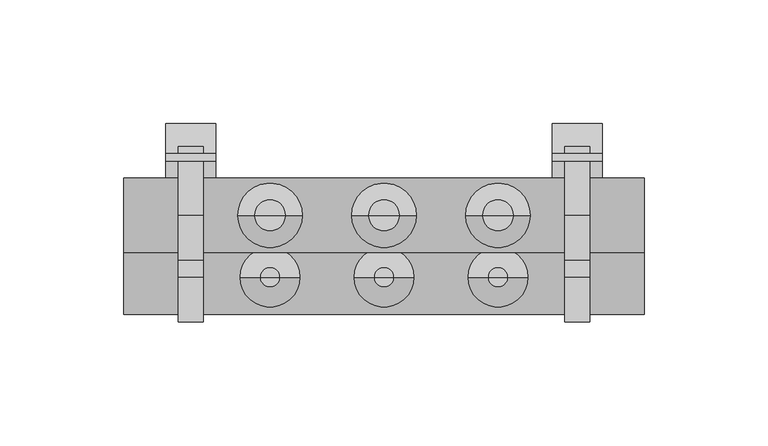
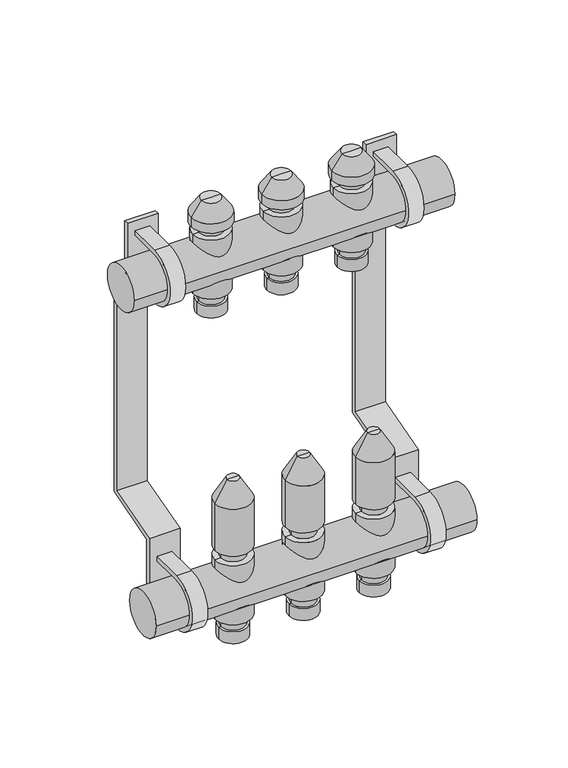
"""IFC4 building model written with IfcOpenShell, lengths in millimetres: valve geometry, PL AT_Manifold_FT-EV : 03 circuits."""

from ifc_helpers import new_model, si_unit, point, frame, frame_2d, origin, origin_2d, place, context, project, spatial, polyline, circle_curve, trimmed, segment, composite_curve, outline, extrude, source, transform, mapped, element, save
from ifc_brep_helpers import plane_surface, cylinder_surface, revolved_surface, advanced_brep


def valve_5e9e6dc7(model_context):
    return source(origin(), model_context, "Body", "SolidModel", [
        advanced_brep(
        [(78.5, 0.0, -35.11267), (97.5, 0.0, -35.11267), (88.0, 0.0, -35.11267), (78.5, 0.0, -27.0369646), (97.5, 0.0, -27.0369646), (80.0, 0.0, -27.0369646), (96.0, 0.0, -27.0369646), (80.0, 0.0, -20.330253), (96.0, 0.0, -20.330253), (76.0, 0.0, -20.330253), (100.0, 0.0, -20.330253), (76.0, 0.0, 20.330253), (100.0, 0.0, 20.330253), (80.0, 0.0, 20.330253), (96.0, 0.0, 20.330253), (80.0, 0.0, 27.0474786), (96.0, 0.0, 27.0474786), (76.0, 0.0, 27.0474786), (100.0, 0.0, 27.0474786), (76.0, 0.0, 59.4084325), (100.0, 0.0, 59.4084325), (84.0, 0.0, 73.264839), (92.0, 0.0, 73.264839), (88.0, 0.0, 73.264839)],
        [
            (0, 1, circle_curve(frame((88.0, 0.0, -35.11267), z_axis=(0.0, 0.0, -1.0), x_axis=(1.0, 0.0, 0.0)), 9.5)),
            (1, 2),
            (2, 0),
            (1, 0, circle_curve(frame((88.0, 0.0, -35.11267), z_axis=(0.0, 0.0, -1.0), x_axis=(1.0, 0.0, 0.0)), 9.5)),
            (3, 4, circle_curve(frame((88.0, 0.0, -27.0369646), z_axis=(0.0, 0.0, -1.0), x_axis=(1.0, 0.0, 0.0)), 9.5)),
            (4, 1),
            (0, 3),
            (4, 3, circle_curve(frame((88.0, 0.0, -27.0369646), z_axis=(0.0, 0.0, -1.0), x_axis=(1.0, 0.0, 0.0)), 9.5)),
            (5, 6, circle_curve(frame((88.0, 0.0, -27.0369646), z_axis=(0.0, 0.0, -1.0), x_axis=(1.0, 0.0, 0.0)), 8.0)),
            (6, 4),
            (3, 5),
            (6, 5, circle_curve(frame((88.0, 0.0, -27.0369646), z_axis=(0.0, 0.0, -1.0), x_axis=(1.0, 0.0, 0.0)), 8.0)),
            (7, 8, circle_curve(frame((88.0, 0.0, -20.330253), z_axis=(0.0, 0.0, -1.0), x_axis=(1.0, 0.0, 0.0)), 8.0)),
            (8, 6),
            (5, 7),
            (8, 7, circle_curve(frame((88.0, 0.0, -20.330253), z_axis=(0.0, 0.0, -1.0), x_axis=(1.0, 0.0, 0.0)), 8.0)),
            (9, 10, circle_curve(frame((88.0, 0.0, -20.330253), z_axis=(0.0, 0.0, -1.0), x_axis=(1.0, 0.0, 0.0)), 12.0)),
            (10, 8),
            (7, 9),
            (10, 9, circle_curve(frame((88.0, 0.0, -20.330253), z_axis=(0.0, 0.0, -1.0), x_axis=(1.0, 0.0, 0.0)), 12.0)),
            (11, 12, circle_curve(frame((88.0, 0.0, 20.330253), z_axis=(0.0, 0.0, -1.0), x_axis=(1.0, 0.0, 0.0)), 12.0)),
            (12, 10),
            (9, 11),
            (12, 11, circle_curve(frame((88.0, 0.0, 20.330253), z_axis=(0.0, 0.0, -1.0), x_axis=(1.0, 0.0, 0.0)), 12.0)),
            (13, 14, circle_curve(frame((88.0, 0.0, 20.330253), z_axis=(0.0, 0.0, -1.0), x_axis=(1.0, 0.0, 0.0)), 8.0)),
            (14, 12),
            (11, 13),
            (14, 13, circle_curve(frame((88.0, 0.0, 20.330253), z_axis=(0.0, 0.0, -1.0), x_axis=(1.0, 0.0, 0.0)), 8.0)),
            (15, 16, circle_curve(frame((88.0, 0.0, 27.0474786), z_axis=(0.0, 0.0, -1.0), x_axis=(1.0, 0.0, 0.0)), 8.0)),
            (16, 14),
            (13, 15),
            (16, 15, circle_curve(frame((88.0, 0.0, 27.0474786), z_axis=(0.0, 0.0, -1.0), x_axis=(1.0, 0.0, 0.0)), 8.0)),
            (17, 18, circle_curve(frame((88.0, 0.0, 27.0474786), z_axis=(0.0, 0.0, -1.0), x_axis=(1.0, 0.0, 0.0)), 12.0)),
            (18, 16),
            (15, 17),
            (18, 17, circle_curve(frame((88.0, 0.0, 27.0474786), z_axis=(0.0, 0.0, -1.0), x_axis=(1.0, 0.0, 0.0)), 12.0)),
            (19, 20, circle_curve(frame((88.0, 0.0, 59.4084325), z_axis=(0.0, 0.0, -1.0), x_axis=(1.0, 0.0, 0.0)), 12.0)),
            (20, 18),
            (17, 19),
            (20, 19, circle_curve(frame((88.0, 0.0, 59.4084325), z_axis=(0.0, 0.0, -1.0), x_axis=(1.0, 0.0, 0.0)), 12.0)),
            (21, 22, circle_curve(frame((88.0, 0.0, 73.264839), z_axis=(0.0, 0.0, -1.0), x_axis=(1.0, 0.0, 0.0)), 4.0)),
            (22, 20),
            (19, 21),
            (22, 21, circle_curve(frame((88.0, 0.0, 73.264839), z_axis=(0.0, 0.0, -1.0), x_axis=(1.0, 0.0, 0.0)), 4.0)),
            (23, 22),
            (21, 23),
        ],
        [
            plane_surface(frame((88.0, 0.0, -35.11267), z_axis=(0.0, 0.0, -1.0), x_axis=(1.0, 0.0, 0.0))),
            cylinder_surface(frame((88.0, 0.0, 58.264839), z_axis=(0.0, 0.0, 1.0), x_axis=(1.0, 0.0, 0.0)), 9.5),
            plane_surface(frame((88.0, 0.0, -27.0369646), z_axis=(0.0, 0.0, 1.0), x_axis=(1.0, 0.0, 0.0))),
            cylinder_surface(frame((88.0, 0.0, 58.264839), z_axis=(0.0, 0.0, 1.0), x_axis=(1.0, 0.0, 0.0)), 8.0),
            plane_surface(frame((88.0, 0.0, -20.330253), z_axis=(0.0, 0.0, -1.0), x_axis=(1.0, 0.0, 0.0))),
            cylinder_surface(frame((88.0, 0.0, 58.264839), z_axis=(0.0, 0.0, 1.0), x_axis=(1.0, 0.0, 0.0)), 12.0),
            plane_surface(frame((88.0, 0.0, 20.330253), z_axis=(0.0, 0.0, 1.0), x_axis=(1.0, 0.0, 0.0))),
            plane_surface(frame((88.0, 0.0, 27.0474786), z_axis=(0.0, 0.0, -1.0), x_axis=(1.0, 0.0, 0.0))),
            revolved_surface(polyline([(100.0, 0.0, 59.4084325), (92.0, 0.0, 73.264839)]), (88.0, 0.0, 58.264839), (0.0, 0.0, 1.0)),
            plane_surface(frame((88.0, 0.0, 73.264839), z_axis=(0.0, 0.0, 1.0), x_axis=(1.0, 0.0, 0.0))),
        ],
        [
            (0, [[1, 2, 3]]),
            (0, [[4, -3, -2]]),
            (1, [[5, 6, -1, 7]]),
            (1, [[8, -7, -4, -6]]),
            (2, [[9, 10, -5, 11]]),
            (2, [[12, -11, -8, -10]]),
            (3, [[13, 14, -9, 15]]),
            (3, [[16, -15, -12, -14]]),
            (4, [[17, 18, -13, 19]]),
            (4, [[20, -19, -16, -18]]),
            (5, [[21, 22, -17, 23]]),
            (5, [[24, -23, -20, -22]]),
            (6, [[25, 26, -21, 27]]),
            (6, [[28, -27, -24, -26]]),
            (3, [[29, 30, -25, 31]]),
            (3, [[32, -31, -28, -30]]),
            (7, [[33, 34, -29, 35]]),
            (7, [[36, -35, -32, -34]]),
            (5, [[37, 38, -33, 39]]),
            (5, [[40, -39, -36, -38]]),
            (8, [[41, 42, -37, 43]]),
            (8, [[44, -43, -40, -42]]),
            (9, [[45, -41, 46]]),
            (9, [[-46, -44, -45]]),
        ],
    ),
        advanced_brep(
        [(78.5, 25.0, 174.88733), (97.5, 25.0, 174.88733), (88.0, 25.0, 174.88733), (78.5, 25.0, 182.9630354), (97.5, 25.0, 182.9630354), (80.0, 25.0, 182.9630354), (96.0, 25.0, 182.9630354), (80.0, 25.0, 189.669747), (96.0, 25.0, 189.669747), (76.0, 25.0, 189.669747), (100.0, 25.0, 189.669747), (76.0, 25.0, 230.330253), (100.0, 25.0, 230.330253), (80.0, 25.0, 230.330253), (96.0, 25.0, 230.330253), (80.0, 25.0, 236.0474786), (96.0, 25.0, 236.0474786), (75.0, 25.0, 236.0474786), (101.0, 25.0, 236.0474786), (75.0, 25.0, 242.337955), (101.0, 25.0, 242.337955), (81.6551779, 25.0, 251.842534), (94.3448221, 25.0, 251.842534), (88.0, 25.0, 251.842534)],
        [
            (0, 1, circle_curve(frame((88.0, 25.0, 174.88733), z_axis=(0.0, 0.0, -1.0), x_axis=(1.0, 0.0, 0.0)), 9.5)),
            (1, 2),
            (2, 0),
            (1, 0, circle_curve(frame((88.0, 25.0, 174.88733), z_axis=(0.0, 0.0, -1.0), x_axis=(1.0, 0.0, 0.0)), 9.5)),
            (3, 4, circle_curve(frame((88.0, 25.0, 182.9630354), z_axis=(0.0, 0.0, -1.0), x_axis=(1.0, 0.0, 0.0)), 9.5)),
            (4, 1),
            (0, 3),
            (4, 3, circle_curve(frame((88.0, 25.0, 182.9630354), z_axis=(0.0, 0.0, -1.0), x_axis=(1.0, 0.0, 0.0)), 9.5)),
            (5, 6, circle_curve(frame((88.0, 25.0, 182.9630354), z_axis=(0.0, 0.0, -1.0), x_axis=(1.0, 0.0, 0.0)), 8.0)),
            (6, 4),
            (3, 5),
            (6, 5, circle_curve(frame((88.0, 25.0, 182.9630354), z_axis=(0.0, 0.0, -1.0), x_axis=(1.0, 0.0, 0.0)), 8.0)),
            (7, 8, circle_curve(frame((88.0, 25.0, 189.669747), z_axis=(0.0, 0.0, -1.0), x_axis=(1.0, 0.0, 0.0)), 8.0)),
            (8, 6),
            (5, 7),
            (8, 7, circle_curve(frame((88.0, 25.0, 189.669747), z_axis=(0.0, 0.0, -1.0), x_axis=(1.0, 0.0, 0.0)), 8.0)),
            (9, 10, circle_curve(frame((88.0, 25.0, 189.669747), z_axis=(0.0, 0.0, -1.0), x_axis=(1.0, 0.0, 0.0)), 12.0)),
            (10, 8),
            (7, 9),
            (10, 9, circle_curve(frame((88.0, 25.0, 189.669747), z_axis=(0.0, 0.0, -1.0), x_axis=(1.0, 0.0, 0.0)), 12.0)),
            (11, 12, circle_curve(frame((88.0, 25.0, 230.330253), z_axis=(0.0, 0.0, -1.0), x_axis=(1.0, 0.0, 0.0)), 12.0)),
            (12, 10),
            (9, 11),
            (12, 11, circle_curve(frame((88.0, 25.0, 230.330253), z_axis=(0.0, 0.0, -1.0), x_axis=(1.0, 0.0, 0.0)), 12.0)),
            (13, 14, circle_curve(frame((88.0, 25.0, 230.330253), z_axis=(0.0, 0.0, -1.0), x_axis=(1.0, 0.0, 0.0)), 8.0)),
            (14, 12),
            (11, 13),
            (14, 13, circle_curve(frame((88.0, 25.0, 230.330253), z_axis=(0.0, 0.0, -1.0), x_axis=(1.0, 0.0, 0.0)), 8.0)),
            (15, 16, circle_curve(frame((88.0, 25.0, 236.0474786), z_axis=(0.0, 0.0, -1.0), x_axis=(1.0, 0.0, 0.0)), 8.0)),
            (16, 14),
            (13, 15),
            (16, 15, circle_curve(frame((88.0, 25.0, 236.0474786), z_axis=(0.0, 0.0, -1.0), x_axis=(1.0, 0.0, 0.0)), 8.0)),
            (17, 18, circle_curve(frame((88.0, 25.0, 236.0474786), z_axis=(0.0, 0.0, -1.0), x_axis=(1.0, 0.0, 0.0)), 13.0)),
            (18, 16),
            (15, 17),
            (18, 17, circle_curve(frame((88.0, 25.0, 236.0474786), z_axis=(0.0, 0.0, -1.0), x_axis=(1.0, 0.0, 0.0)), 13.0)),
            (19, 20, circle_curve(frame((88.0, 25.0, 242.337955), z_axis=(0.0, 0.0, -1.0), x_axis=(1.0, 0.0, 0.0)), 13.0)),
            (20, 18),
            (17, 19),
            (20, 19, circle_curve(frame((88.0, 25.0, 242.337955), z_axis=(0.0, 0.0, -1.0), x_axis=(1.0, 0.0, 0.0)), 13.0)),
            (21, 22, circle_curve(frame((88.0, 25.0, 251.842534), z_axis=(0.0, 0.0, -1.0), x_axis=(1.0, 0.0, 0.0)), 6.3448221)),
            (22, 20),
            (19, 21),
            (22, 21, circle_curve(frame((88.0, 25.0, 251.842534), z_axis=(0.0, 0.0, -1.0), x_axis=(1.0, 0.0, 0.0)), 6.3448221)),
            (23, 22),
            (21, 23),
        ],
        [
            plane_surface(frame((88.0, 25.0, 174.88733), z_axis=(0.0, 0.0, -1.0), x_axis=(1.0, 0.0, 0.0))),
            cylinder_surface(frame((88.0, 25.0, 247.7026565), z_axis=(0.0, 0.0, 1.0), x_axis=(1.0, 0.0, 0.0)), 9.5),
            plane_surface(frame((88.0, 25.0, 182.9630354), z_axis=(0.0, 0.0, 1.0), x_axis=(1.0, 0.0, 0.0))),
            cylinder_surface(frame((88.0, 25.0, 247.7026565), z_axis=(0.0, 0.0, 1.0), x_axis=(1.0, 0.0, 0.0)), 8.0),
            plane_surface(frame((88.0, 25.0, 189.669747), z_axis=(0.0, 0.0, -1.0), x_axis=(1.0, 0.0, 0.0))),
            cylinder_surface(frame((88.0, 25.0, 247.7026565), z_axis=(0.0, 0.0, 1.0), x_axis=(1.0, 0.0, 0.0)), 12.0),
            plane_surface(frame((88.0, 25.0, 230.330253), z_axis=(0.0, 0.0, 1.0), x_axis=(1.0, 0.0, 0.0))),
            plane_surface(frame((88.0, 25.0, 236.0474786), z_axis=(0.0, 0.0, -1.0), x_axis=(1.0, 0.0, 0.0))),
            cylinder_surface(frame((88.0, 25.0, 247.7026565), z_axis=(0.0, 0.0, 1.0), x_axis=(1.0, 0.0, 0.0)), 13.0),
            revolved_surface(polyline([(101.0, 25.0, 242.337955), (94.3448221, 25.0, 251.842534)]), (88.0, 25.0, 247.7026565), (0.0, 0.0, 1.0)),
            plane_surface(frame((88.0, 25.0, 251.842534), z_axis=(0.0, 0.0, 1.0), x_axis=(1.0, 0.0, 0.0))),
        ],
        [
            (0, [[1, 2, 3]]),
            (0, [[4, -3, -2]]),
            (1, [[5, 6, -1, 7]]),
            (1, [[8, -7, -4, -6]]),
            (2, [[9, 10, -5, 11]]),
            (2, [[12, -11, -8, -10]]),
            (3, [[13, 14, -9, 15]]),
            (3, [[16, -15, -12, -14]]),
            (4, [[17, 18, -13, 19]]),
            (4, [[20, -19, -16, -18]]),
            (5, [[21, 22, -17, 23]]),
            (5, [[24, -23, -20, -22]]),
            (6, [[25, 26, -21, 27]]),
            (6, [[28, -27, -24, -26]]),
            (3, [[29, 30, -25, 31]]),
            (3, [[32, -31, -28, -30]]),
            (7, [[33, 34, -29, 35]]),
            (7, [[36, -35, -32, -34]]),
            (8, [[37, 38, -33, 39]]),
            (8, [[40, -39, -36, -38]]),
            (9, [[41, 42, -37, 43]]),
            (9, [[44, -43, -40, -42]]),
            (10, [[45, -41, 46]]),
            (10, [[-46, -44, -45]]),
        ],
    ),
        advanced_brep(
        [(124.5, 0.0, -35.11267), (143.5, 0.0, -35.11267), (134.0, 0.0, -35.11267), (124.5, 0.0, -27.0369646), (143.5, 0.0, -27.0369646), (126.0, 0.0, -27.0369646), (142.0, 0.0, -27.0369646), (126.0, 0.0, -20.330253), (142.0, 0.0, -20.330253), (122.0, 0.0, -20.330253), (146.0, 0.0, -20.330253), (122.0, 0.0, 20.330253), (146.0, 0.0, 20.330253), (126.0, 0.0, 20.330253), (142.0, 0.0, 20.330253), (126.0, 0.0, 27.0474786), (142.0, 0.0, 27.0474786), (122.0, 0.0, 27.0474786), (146.0, 0.0, 27.0474786), (122.0, 0.0, 59.4084325), (146.0, 0.0, 59.4084325), (130.0, 0.0, 73.264839), (138.0, 0.0, 73.264839), (134.0, 0.0, 73.264839)],
        [
            (0, 1, circle_curve(frame((134.0, 0.0, -35.11267), z_axis=(0.0, 0.0, -1.0), x_axis=(1.0, 0.0, 0.0)), 9.5)),
            (1, 2),
            (2, 0),
            (1, 0, circle_curve(frame((134.0, 0.0, -35.11267), z_axis=(0.0, 0.0, -1.0), x_axis=(1.0, 0.0, 0.0)), 9.5)),
            (3, 4, circle_curve(frame((134.0, 0.0, -27.0369646), z_axis=(0.0, 0.0, -1.0), x_axis=(1.0, 0.0, 0.0)), 9.5)),
            (4, 1),
            (0, 3),
            (4, 3, circle_curve(frame((134.0, 0.0, -27.0369646), z_axis=(0.0, 0.0, -1.0), x_axis=(1.0, 0.0, 0.0)), 9.5)),
            (5, 6, circle_curve(frame((134.0, 0.0, -27.0369646), z_axis=(0.0, 0.0, -1.0), x_axis=(1.0, 0.0, 0.0)), 8.0)),
            (6, 4),
            (3, 5),
            (6, 5, circle_curve(frame((134.0, 0.0, -27.0369646), z_axis=(0.0, 0.0, -1.0), x_axis=(1.0, 0.0, 0.0)), 8.0)),
            (7, 8, circle_curve(frame((134.0, 0.0, -20.330253), z_axis=(0.0, 0.0, -1.0), x_axis=(1.0, 0.0, 0.0)), 8.0)),
            (8, 6),
            (5, 7),
            (8, 7, circle_curve(frame((134.0, 0.0, -20.330253), z_axis=(0.0, 0.0, -1.0), x_axis=(1.0, 0.0, 0.0)), 8.0)),
            (9, 10, circle_curve(frame((134.0, 0.0, -20.330253), z_axis=(0.0, 0.0, -1.0), x_axis=(1.0, 0.0, 0.0)), 12.0)),
            (10, 8),
            (7, 9),
            (10, 9, circle_curve(frame((134.0, 0.0, -20.330253), z_axis=(0.0, 0.0, -1.0), x_axis=(1.0, 0.0, 0.0)), 12.0)),
            (11, 12, circle_curve(frame((134.0, 0.0, 20.330253), z_axis=(0.0, 0.0, -1.0), x_axis=(1.0, 0.0, 0.0)), 12.0)),
            (12, 10),
            (9, 11),
            (12, 11, circle_curve(frame((134.0, 0.0, 20.330253), z_axis=(0.0, 0.0, -1.0), x_axis=(1.0, 0.0, 0.0)), 12.0)),
            (13, 14, circle_curve(frame((134.0, 0.0, 20.330253), z_axis=(0.0, 0.0, -1.0), x_axis=(1.0, 0.0, 0.0)), 8.0)),
            (14, 12),
            (11, 13),
            (14, 13, circle_curve(frame((134.0, 0.0, 20.330253), z_axis=(0.0, 0.0, -1.0), x_axis=(1.0, 0.0, 0.0)), 8.0)),
            (15, 16, circle_curve(frame((134.0, 0.0, 27.0474786), z_axis=(0.0, 0.0, -1.0), x_axis=(1.0, 0.0, 0.0)), 8.0)),
            (16, 14),
            (13, 15),
            (16, 15, circle_curve(frame((134.0, 0.0, 27.0474786), z_axis=(0.0, 0.0, -1.0), x_axis=(1.0, 0.0, 0.0)), 8.0)),
            (17, 18, circle_curve(frame((134.0, 0.0, 27.0474786), z_axis=(0.0, 0.0, -1.0), x_axis=(1.0, 0.0, 0.0)), 12.0)),
            (18, 16),
            (15, 17),
            (18, 17, circle_curve(frame((134.0, 0.0, 27.0474786), z_axis=(0.0, 0.0, -1.0), x_axis=(1.0, 0.0, 0.0)), 12.0)),
            (19, 20, circle_curve(frame((134.0, 0.0, 59.4084325), z_axis=(0.0, 0.0, -1.0), x_axis=(1.0, 0.0, 0.0)), 12.0)),
            (20, 18),
            (17, 19),
            (20, 19, circle_curve(frame((134.0, 0.0, 59.4084325), z_axis=(0.0, 0.0, -1.0), x_axis=(1.0, 0.0, 0.0)), 12.0)),
            (21, 22, circle_curve(frame((134.0, 0.0, 73.264839), z_axis=(0.0, 0.0, -1.0), x_axis=(1.0, 0.0, 0.0)), 4.0)),
            (22, 20),
            (19, 21),
            (22, 21, circle_curve(frame((134.0, 0.0, 73.264839), z_axis=(0.0, 0.0, -1.0), x_axis=(1.0, 0.0, 0.0)), 4.0)),
            (23, 22),
            (21, 23),
        ],
        [
            plane_surface(frame((134.0, 0.0, -35.11267), z_axis=(0.0, 0.0, -1.0), x_axis=(1.0, 0.0, 0.0))),
            cylinder_surface(frame((134.0, 0.0, 58.264839), z_axis=(0.0, 0.0, 1.0), x_axis=(1.0, 0.0, 0.0)), 9.5),
            plane_surface(frame((134.0, 0.0, -27.0369646), z_axis=(0.0, 0.0, 1.0), x_axis=(1.0, 0.0, 0.0))),
            cylinder_surface(frame((134.0, 0.0, 58.264839), z_axis=(0.0, 0.0, 1.0), x_axis=(1.0, 0.0, 0.0)), 8.0),
            plane_surface(frame((134.0, 0.0, -20.330253), z_axis=(0.0, 0.0, -1.0), x_axis=(1.0, 0.0, 0.0))),
            cylinder_surface(frame((134.0, 0.0, 58.264839), z_axis=(0.0, 0.0, 1.0), x_axis=(1.0, 0.0, 0.0)), 12.0),
            plane_surface(frame((134.0, 0.0, 20.330253), z_axis=(0.0, 0.0, 1.0), x_axis=(1.0, 0.0, 0.0))),
            plane_surface(frame((134.0, 0.0, 27.0474786), z_axis=(0.0, 0.0, -1.0), x_axis=(1.0, 0.0, 0.0))),
            revolved_surface(polyline([(146.0, 0.0, 59.4084325), (138.0, 0.0, 73.264839)]), (134.0, 0.0, 58.264839), (0.0, 0.0, 1.0)),
            plane_surface(frame((134.0, 0.0, 73.264839), z_axis=(0.0, 0.0, 1.0), x_axis=(1.0, 0.0, 0.0))),
        ],
        [
            (0, [[1, 2, 3]]),
            (0, [[4, -3, -2]]),
            (1, [[5, 6, -1, 7]]),
            (1, [[8, -7, -4, -6]]),
            (2, [[9, 10, -5, 11]]),
            (2, [[12, -11, -8, -10]]),
            (3, [[13, 14, -9, 15]]),
            (3, [[16, -15, -12, -14]]),
            (4, [[17, 18, -13, 19]]),
            (4, [[20, -19, -16, -18]]),
            (5, [[21, 22, -17, 23]]),
            (5, [[24, -23, -20, -22]]),
            (6, [[25, 26, -21, 27]]),
            (6, [[28, -27, -24, -26]]),
            (3, [[29, 30, -25, 31]]),
            (3, [[32, -31, -28, -30]]),
            (7, [[33, 34, -29, 35]]),
            (7, [[36, -35, -32, -34]]),
            (5, [[37, 38, -33, 39]]),
            (5, [[40, -39, -36, -38]]),
            (8, [[41, 42, -37, 43]]),
            (8, [[44, -43, -40, -42]]),
            (9, [[45, -41, 46]]),
            (9, [[-46, -44, -45]]),
        ],
    ),
        advanced_brep(
        [(124.5, 25.0, 174.88733), (143.5, 25.0, 174.88733), (134.0, 25.0, 174.88733), (124.5, 25.0, 182.9630354), (143.5, 25.0, 182.9630354), (126.0, 25.0, 182.9630354), (142.0, 25.0, 182.9630354), (126.0, 25.0, 189.669747), (142.0, 25.0, 189.669747), (122.0, 25.0, 189.669747), (146.0, 25.0, 189.669747), (122.0, 25.0, 230.330253), (146.0, 25.0, 230.330253), (126.0, 25.0, 230.330253), (142.0, 25.0, 230.330253), (126.0, 25.0, 236.0474786), (142.0, 25.0, 236.0474786), (121.0, 25.0, 236.0474786), (147.0, 25.0, 236.0474786), (121.0, 25.0, 242.337955), (147.0, 25.0, 242.337955), (127.6551779, 25.0, 251.842534), (140.3448221, 25.0, 251.842534), (134.0, 25.0, 251.842534)],
        [
            (0, 1, circle_curve(frame((134.0, 25.0, 174.88733), z_axis=(0.0, 0.0, -1.0), x_axis=(1.0, 0.0, 0.0)), 9.5)),
            (1, 2),
            (2, 0),
            (1, 0, circle_curve(frame((134.0, 25.0, 174.88733), z_axis=(0.0, 0.0, -1.0), x_axis=(1.0, 0.0, 0.0)), 9.5)),
            (3, 4, circle_curve(frame((134.0, 25.0, 182.9630354), z_axis=(0.0, 0.0, -1.0), x_axis=(1.0, 0.0, 0.0)), 9.5)),
            (4, 1),
            (0, 3),
            (4, 3, circle_curve(frame((134.0, 25.0, 182.9630354), z_axis=(0.0, 0.0, -1.0), x_axis=(1.0, 0.0, 0.0)), 9.5)),
            (5, 6, circle_curve(frame((134.0, 25.0, 182.9630354), z_axis=(0.0, 0.0, -1.0), x_axis=(1.0, 0.0, 0.0)), 8.0)),
            (6, 4),
            (3, 5),
            (6, 5, circle_curve(frame((134.0, 25.0, 182.9630354), z_axis=(0.0, 0.0, -1.0), x_axis=(1.0, 0.0, 0.0)), 8.0)),
            (7, 8, circle_curve(frame((134.0, 25.0, 189.669747), z_axis=(0.0, 0.0, -1.0), x_axis=(1.0, 0.0, 0.0)), 8.0)),
            (8, 6),
            (5, 7),
            (8, 7, circle_curve(frame((134.0, 25.0, 189.669747), z_axis=(0.0, 0.0, -1.0), x_axis=(1.0, 0.0, 0.0)), 8.0)),
            (9, 10, circle_curve(frame((134.0, 25.0, 189.669747), z_axis=(0.0, 0.0, -1.0), x_axis=(1.0, 0.0, 0.0)), 12.0)),
            (10, 8),
            (7, 9),
            (10, 9, circle_curve(frame((134.0, 25.0, 189.669747), z_axis=(0.0, 0.0, -1.0), x_axis=(1.0, 0.0, 0.0)), 12.0)),
            (11, 12, circle_curve(frame((134.0, 25.0, 230.330253), z_axis=(0.0, 0.0, -1.0), x_axis=(1.0, 0.0, 0.0)), 12.0)),
            (12, 10),
            (9, 11),
            (12, 11, circle_curve(frame((134.0, 25.0, 230.330253), z_axis=(0.0, 0.0, -1.0), x_axis=(1.0, 0.0, 0.0)), 12.0)),
            (13, 14, circle_curve(frame((134.0, 25.0, 230.330253), z_axis=(0.0, 0.0, -1.0), x_axis=(1.0, 0.0, 0.0)), 8.0)),
            (14, 12),
            (11, 13),
            (14, 13, circle_curve(frame((134.0, 25.0, 230.330253), z_axis=(0.0, 0.0, -1.0), x_axis=(1.0, 0.0, 0.0)), 8.0)),
            (15, 16, circle_curve(frame((134.0, 25.0, 236.0474786), z_axis=(0.0, 0.0, -1.0), x_axis=(1.0, 0.0, 0.0)), 8.0)),
            (16, 14),
            (13, 15),
            (16, 15, circle_curve(frame((134.0, 25.0, 236.0474786), z_axis=(0.0, 0.0, -1.0), x_axis=(1.0, 0.0, 0.0)), 8.0)),
            (17, 18, circle_curve(frame((134.0, 25.0, 236.0474786), z_axis=(0.0, 0.0, -1.0), x_axis=(1.0, 0.0, 0.0)), 13.0)),
            (18, 16),
            (15, 17),
            (18, 17, circle_curve(frame((134.0, 25.0, 236.0474786), z_axis=(0.0, 0.0, -1.0), x_axis=(1.0, 0.0, 0.0)), 13.0)),
            (19, 20, circle_curve(frame((134.0, 25.0, 242.337955), z_axis=(0.0, 0.0, -1.0), x_axis=(1.0, 0.0, 0.0)), 13.0)),
            (20, 18),
            (17, 19),
            (20, 19, circle_curve(frame((134.0, 25.0, 242.337955), z_axis=(0.0, 0.0, -1.0), x_axis=(1.0, 0.0, 0.0)), 13.0)),
            (21, 22, circle_curve(frame((134.0, 25.0, 251.842534), z_axis=(0.0, 0.0, -1.0), x_axis=(1.0, 0.0, 0.0)), 6.3448221)),
            (22, 20),
            (19, 21),
            (22, 21, circle_curve(frame((134.0, 25.0, 251.842534), z_axis=(0.0, 0.0, -1.0), x_axis=(1.0, 0.0, 0.0)), 6.3448221)),
            (23, 22),
            (21, 23),
        ],
        [
            plane_surface(frame((134.0, 25.0, 174.88733), z_axis=(0.0, 0.0, -1.0), x_axis=(1.0, 0.0, 0.0))),
            cylinder_surface(frame((134.0, 25.0, 247.7026565), z_axis=(0.0, 0.0, 1.0), x_axis=(1.0, 0.0, 0.0)), 9.5),
            plane_surface(frame((134.0, 25.0, 182.9630354), z_axis=(0.0, 0.0, 1.0), x_axis=(1.0, 0.0, 0.0))),
            cylinder_surface(frame((134.0, 25.0, 247.7026565), z_axis=(0.0, 0.0, 1.0), x_axis=(1.0, 0.0, 0.0)), 8.0),
            plane_surface(frame((134.0, 25.0, 189.669747), z_axis=(0.0, 0.0, -1.0), x_axis=(1.0, 0.0, 0.0))),
            cylinder_surface(frame((134.0, 25.0, 247.7026565), z_axis=(0.0, 0.0, 1.0), x_axis=(1.0, 0.0, 0.0)), 12.0),
            plane_surface(frame((134.0, 25.0, 230.330253), z_axis=(0.0, 0.0, 1.0), x_axis=(1.0, 0.0, 0.0))),
            plane_surface(frame((134.0, 25.0, 236.0474786), z_axis=(0.0, 0.0, -1.0), x_axis=(1.0, 0.0, 0.0))),
            cylinder_surface(frame((134.0, 25.0, 247.7026565), z_axis=(0.0, 0.0, 1.0), x_axis=(1.0, 0.0, 0.0)), 13.0),
            revolved_surface(polyline([(147.0, 25.0, 242.337955), (140.3448221, 25.0, 251.842534)]), (134.0, 25.0, 247.7026565), (0.0, 0.0, 1.0)),
            plane_surface(frame((134.0, 25.0, 251.842534), z_axis=(0.0, 0.0, 1.0), x_axis=(1.0, 0.0, 0.0))),
        ],
        [
            (0, [[1, 2, 3]]),
            (0, [[4, -3, -2]]),
            (1, [[5, 6, -1, 7]]),
            (1, [[8, -7, -4, -6]]),
            (2, [[9, 10, -5, 11]]),
            (2, [[12, -11, -8, -10]]),
            (3, [[13, 14, -9, 15]]),
            (3, [[16, -15, -12, -14]]),
            (4, [[17, 18, -13, 19]]),
            (4, [[20, -19, -16, -18]]),
            (5, [[21, 22, -17, 23]]),
            (5, [[24, -23, -20, -22]]),
            (6, [[25, 26, -21, 27]]),
            (6, [[28, -27, -24, -26]]),
            (3, [[29, 30, -25, 31]]),
            (3, [[32, -31, -28, -30]]),
            (7, [[33, 34, -29, 35]]),
            (7, [[36, -35, -32, -34]]),
            (8, [[37, 38, -33, 39]]),
            (8, [[40, -39, -36, -38]]),
            (9, [[41, 42, -37, 43]]),
            (9, [[44, -43, -40, -42]]),
            (10, [[45, -41, 46]]),
            (10, [[-46, -44, -45]]),
        ],
    ),
        advanced_brep(
        [(32.5, 25.0, 174.88733), (51.5, 25.0, 174.88733), (42.0, 25.0, 174.88733), (32.5, 25.0, 182.9630354), (51.5, 25.0, 182.9630354), (34.0, 25.0, 182.9630354), (50.0, 25.0, 182.9630354), (34.0, 25.0, 189.669747), (50.0, 25.0, 189.669747), (30.0, 25.0, 189.669747), (54.0, 25.0, 189.669747), (30.0, 25.0, 230.330253), (54.0, 25.0, 230.330253), (34.0, 25.0, 230.330253), (50.0, 25.0, 230.330253), (34.0, 25.0, 236.0474786), (50.0, 25.0, 236.0474786), (29.0, 25.0, 236.0474786), (55.0, 25.0, 236.0474786), (29.0, 25.0, 242.337955), (55.0, 25.0, 242.337955), (35.6551779, 25.0, 251.842534), (48.3448221, 25.0, 251.842534), (42.0, 25.0, 251.842534)],
        [
            (0, 1, circle_curve(frame((42.0, 25.0, 174.88733), z_axis=(0.0, 0.0, -1.0), x_axis=(1.0, 0.0, 0.0)), 9.5)),
            (1, 2),
            (2, 0),
            (1, 0, circle_curve(frame((42.0, 25.0, 174.88733), z_axis=(0.0, 0.0, -1.0), x_axis=(1.0, 0.0, 0.0)), 9.5)),
            (3, 4, circle_curve(frame((42.0, 25.0, 182.9630354), z_axis=(0.0, 0.0, -1.0), x_axis=(1.0, 0.0, 0.0)), 9.5)),
            (4, 1),
            (0, 3),
            (4, 3, circle_curve(frame((42.0, 25.0, 182.9630354), z_axis=(0.0, 0.0, -1.0), x_axis=(1.0, 0.0, 0.0)), 9.5)),
            (5, 6, circle_curve(frame((42.0, 25.0, 182.9630354), z_axis=(0.0, 0.0, -1.0), x_axis=(1.0, 0.0, 0.0)), 8.0)),
            (6, 4),
            (3, 5),
            (6, 5, circle_curve(frame((42.0, 25.0, 182.9630354), z_axis=(0.0, 0.0, -1.0), x_axis=(1.0, 0.0, 0.0)), 8.0)),
            (7, 8, circle_curve(frame((42.0, 25.0, 189.669747), z_axis=(0.0, 0.0, -1.0), x_axis=(1.0, 0.0, 0.0)), 8.0)),
            (8, 6),
            (5, 7),
            (8, 7, circle_curve(frame((42.0, 25.0, 189.669747), z_axis=(0.0, 0.0, -1.0), x_axis=(1.0, 0.0, 0.0)), 8.0)),
            (9, 10, circle_curve(frame((42.0, 25.0, 189.669747), z_axis=(0.0, 0.0, -1.0), x_axis=(1.0, 0.0, 0.0)), 12.0)),
            (10, 8),
            (7, 9),
            (10, 9, circle_curve(frame((42.0, 25.0, 189.669747), z_axis=(0.0, 0.0, -1.0), x_axis=(1.0, 0.0, 0.0)), 12.0)),
            (11, 12, circle_curve(frame((42.0, 25.0, 230.330253), z_axis=(0.0, 0.0, -1.0), x_axis=(1.0, 0.0, 0.0)), 12.0)),
            (12, 10),
            (9, 11),
            (12, 11, circle_curve(frame((42.0, 25.0, 230.330253), z_axis=(0.0, 0.0, -1.0), x_axis=(1.0, 0.0, 0.0)), 12.0)),
            (13, 14, circle_curve(frame((42.0, 25.0, 230.330253), z_axis=(0.0, 0.0, -1.0), x_axis=(1.0, 0.0, 0.0)), 8.0)),
            (14, 12),
            (11, 13),
            (14, 13, circle_curve(frame((42.0, 25.0, 230.330253), z_axis=(0.0, 0.0, -1.0), x_axis=(1.0, 0.0, 0.0)), 8.0)),
            (15, 16, circle_curve(frame((42.0, 25.0, 236.0474786), z_axis=(0.0, 0.0, -1.0), x_axis=(1.0, 0.0, 0.0)), 8.0)),
            (16, 14),
            (13, 15),
            (16, 15, circle_curve(frame((42.0, 25.0, 236.0474786), z_axis=(0.0, 0.0, -1.0), x_axis=(1.0, 0.0, 0.0)), 8.0)),
            (17, 18, circle_curve(frame((42.0, 25.0, 236.0474786), z_axis=(0.0, 0.0, -1.0), x_axis=(1.0, 0.0, 0.0)), 13.0)),
            (18, 16),
            (15, 17),
            (18, 17, circle_curve(frame((42.0, 25.0, 236.0474786), z_axis=(0.0, 0.0, -1.0), x_axis=(1.0, 0.0, 0.0)), 13.0)),
            (19, 20, circle_curve(frame((42.0, 25.0, 242.337955), z_axis=(0.0, 0.0, -1.0), x_axis=(1.0, 0.0, 0.0)), 13.0)),
            (20, 18),
            (17, 19),
            (20, 19, circle_curve(frame((42.0, 25.0, 242.337955), z_axis=(0.0, 0.0, -1.0), x_axis=(1.0, 0.0, 0.0)), 13.0)),
            (21, 22, circle_curve(frame((42.0, 25.0, 251.842534), z_axis=(0.0, 0.0, -1.0), x_axis=(1.0, 0.0, 0.0)), 6.3448221)),
            (22, 20),
            (19, 21),
            (22, 21, circle_curve(frame((42.0, 25.0, 251.842534), z_axis=(0.0, 0.0, -1.0), x_axis=(1.0, 0.0, 0.0)), 6.3448221)),
            (23, 22),
            (21, 23),
        ],
        [
            plane_surface(frame((42.0, 25.0, 174.88733), z_axis=(0.0, 0.0, -1.0), x_axis=(1.0, 0.0, 0.0))),
            cylinder_surface(frame((42.0, 25.0, 247.7026565), z_axis=(0.0, 0.0, 1.0), x_axis=(1.0, 0.0, 0.0)), 9.5),
            plane_surface(frame((42.0, 25.0, 182.9630354), z_axis=(0.0, 0.0, 1.0), x_axis=(1.0, 0.0, 0.0))),
            cylinder_surface(frame((42.0, 25.0, 247.7026565), z_axis=(0.0, 0.0, 1.0), x_axis=(1.0, 0.0, 0.0)), 8.0),
            plane_surface(frame((42.0, 25.0, 189.669747), z_axis=(0.0, 0.0, -1.0), x_axis=(1.0, 0.0, 0.0))),
            cylinder_surface(frame((42.0, 25.0, 247.7026565), z_axis=(0.0, 0.0, 1.0), x_axis=(1.0, 0.0, 0.0)), 12.0),
            plane_surface(frame((42.0, 25.0, 230.330253), z_axis=(0.0, 0.0, 1.0), x_axis=(1.0, 0.0, 0.0))),
            plane_surface(frame((42.0, 25.0, 236.0474786), z_axis=(0.0, 0.0, -1.0), x_axis=(1.0, 0.0, 0.0))),
            cylinder_surface(frame((42.0, 25.0, 247.7026565), z_axis=(0.0, 0.0, 1.0), x_axis=(1.0, 0.0, 0.0)), 13.0),
            revolved_surface(polyline([(55.0, 25.0, 242.337955), (48.3448221, 25.0, 251.842534)]), (42.0, 25.0, 247.7026565), (0.0, 0.0, 1.0)),
            plane_surface(frame((42.0, 25.0, 251.842534), z_axis=(0.0, 0.0, 1.0), x_axis=(1.0, 0.0, 0.0))),
        ],
        [
            (0, [[1, 2, 3]]),
            (0, [[4, -3, -2]]),
            (1, [[5, 6, -1, 7]]),
            (1, [[8, -7, -4, -6]]),
            (2, [[9, 10, -5, 11]]),
            (2, [[12, -11, -8, -10]]),
            (3, [[13, 14, -9, 15]]),
            (3, [[16, -15, -12, -14]]),
            (4, [[17, 18, -13, 19]]),
            (4, [[20, -19, -16, -18]]),
            (5, [[21, 22, -17, 23]]),
            (5, [[24, -23, -20, -22]]),
            (6, [[25, 26, -21, 27]]),
            (6, [[28, -27, -24, -26]]),
            (3, [[29, 30, -25, 31]]),
            (3, [[32, -31, -28, -30]]),
            (7, [[33, 34, -29, 35]]),
            (7, [[36, -35, -32, -34]]),
            (8, [[37, 38, -33, 39]]),
            (8, [[40, -39, -36, -38]]),
            (9, [[41, 42, -37, 43]]),
            (9, [[44, -43, -40, -42]]),
            (10, [[45, -41, 46]]),
            (10, [[-46, -44, -45]]),
        ],
    ),
        advanced_brep(
        [(32.5, 0.0, -35.11267), (51.5, 0.0, -35.11267), (42.0, 0.0, -35.11267), (32.5, 0.0, -27.0369646), (51.5, 0.0, -27.0369646), (34.0, 0.0, -27.0369646), (50.0, 0.0, -27.0369646), (34.0, 0.0, -20.330253), (50.0, 0.0, -20.330253), (30.0, 0.0, -20.330253), (54.0, 0.0, -20.330253), (30.0, 0.0, 20.330253), (54.0, 0.0, 20.330253), (34.0, 0.0, 20.330253), (50.0, 0.0, 20.330253), (34.0, 0.0, 27.0474786), (50.0, 0.0, 27.0474786), (30.0, 0.0, 27.0474786), (54.0, 0.0, 27.0474786), (30.0, 0.0, 59.4084325), (54.0, 0.0, 59.4084325), (38.0, 0.0, 73.264839), (46.0, 0.0, 73.264839), (42.0, 0.0, 73.264839)],
        [
            (0, 1, circle_curve(frame((42.0, 0.0, -35.11267), z_axis=(0.0, 0.0, -1.0), x_axis=(1.0, 0.0, 0.0)), 9.5)),
            (1, 2),
            (2, 0),
            (1, 0, circle_curve(frame((42.0, 0.0, -35.11267), z_axis=(0.0, 0.0, -1.0), x_axis=(1.0, 0.0, 0.0)), 9.5)),
            (3, 4, circle_curve(frame((42.0, 0.0, -27.0369646), z_axis=(0.0, 0.0, -1.0), x_axis=(1.0, 0.0, 0.0)), 9.5)),
            (4, 1),
            (0, 3),
            (4, 3, circle_curve(frame((42.0, 0.0, -27.0369646), z_axis=(0.0, 0.0, -1.0), x_axis=(1.0, 0.0, 0.0)), 9.5)),
            (5, 6, circle_curve(frame((42.0, 0.0, -27.0369646), z_axis=(0.0, 0.0, -1.0), x_axis=(1.0, 0.0, 0.0)), 8.0)),
            (6, 4),
            (3, 5),
            (6, 5, circle_curve(frame((42.0, 0.0, -27.0369646), z_axis=(0.0, 0.0, -1.0), x_axis=(1.0, 0.0, 0.0)), 8.0)),
            (7, 8, circle_curve(frame((42.0, 0.0, -20.330253), z_axis=(0.0, 0.0, -1.0), x_axis=(1.0, 0.0, 0.0)), 8.0)),
            (8, 6),
            (5, 7),
            (8, 7, circle_curve(frame((42.0, 0.0, -20.330253), z_axis=(0.0, 0.0, -1.0), x_axis=(1.0, 0.0, 0.0)), 8.0)),
            (9, 10, circle_curve(frame((42.0, 0.0, -20.330253), z_axis=(0.0, 0.0, -1.0), x_axis=(1.0, 0.0, 0.0)), 12.0)),
            (10, 8),
            (7, 9),
            (10, 9, circle_curve(frame((42.0, 0.0, -20.330253), z_axis=(0.0, 0.0, -1.0), x_axis=(1.0, 0.0, 0.0)), 12.0)),
            (11, 12, circle_curve(frame((42.0, 0.0, 20.330253), z_axis=(0.0, 0.0, -1.0), x_axis=(1.0, 0.0, 0.0)), 12.0)),
            (12, 10),
            (9, 11),
            (12, 11, circle_curve(frame((42.0, 0.0, 20.330253), z_axis=(0.0, 0.0, -1.0), x_axis=(1.0, 0.0, 0.0)), 12.0)),
            (13, 14, circle_curve(frame((42.0, 0.0, 20.330253), z_axis=(0.0, 0.0, -1.0), x_axis=(1.0, 0.0, 0.0)), 8.0)),
            (14, 12),
            (11, 13),
            (14, 13, circle_curve(frame((42.0, 0.0, 20.330253), z_axis=(0.0, 0.0, -1.0), x_axis=(1.0, 0.0, 0.0)), 8.0)),
            (15, 16, circle_curve(frame((42.0, 0.0, 27.0474786), z_axis=(0.0, 0.0, -1.0), x_axis=(1.0, 0.0, 0.0)), 8.0)),
            (16, 14),
            (13, 15),
            (16, 15, circle_curve(frame((42.0, 0.0, 27.0474786), z_axis=(0.0, 0.0, -1.0), x_axis=(1.0, 0.0, 0.0)), 8.0)),
            (17, 18, circle_curve(frame((42.0, 0.0, 27.0474786), z_axis=(0.0, 0.0, -1.0), x_axis=(1.0, 0.0, 0.0)), 12.0)),
            (18, 16),
            (15, 17),
            (18, 17, circle_curve(frame((42.0, 0.0, 27.0474786), z_axis=(0.0, 0.0, -1.0), x_axis=(1.0, 0.0, 0.0)), 12.0)),
            (19, 20, circle_curve(frame((42.0, 0.0, 59.4084325), z_axis=(0.0, 0.0, -1.0), x_axis=(1.0, 0.0, 0.0)), 12.0)),
            (20, 18),
            (17, 19),
            (20, 19, circle_curve(frame((42.0, 0.0, 59.4084325), z_axis=(0.0, 0.0, -1.0), x_axis=(1.0, 0.0, 0.0)), 12.0)),
            (21, 22, circle_curve(frame((42.0, 0.0, 73.264839), z_axis=(0.0, 0.0, -1.0), x_axis=(1.0, 0.0, 0.0)), 4.0)),
            (22, 20),
            (19, 21),
            (22, 21, circle_curve(frame((42.0, 0.0, 73.264839), z_axis=(0.0, 0.0, -1.0), x_axis=(1.0, 0.0, 0.0)), 4.0)),
            (23, 22),
            (21, 23),
        ],
        [
            plane_surface(frame((42.0, 0.0, -35.11267), z_axis=(0.0, 0.0, -1.0), x_axis=(1.0, 0.0, 0.0))),
            cylinder_surface(frame((42.0, 0.0, 58.264839), z_axis=(0.0, 0.0, 1.0), x_axis=(1.0, 0.0, 0.0)), 9.5),
            plane_surface(frame((42.0, 0.0, -27.0369646), z_axis=(0.0, 0.0, 1.0), x_axis=(1.0, 0.0, 0.0))),
            cylinder_surface(frame((42.0, 0.0, 58.264839), z_axis=(0.0, 0.0, 1.0), x_axis=(1.0, 0.0, 0.0)), 8.0),
            plane_surface(frame((42.0, 0.0, -20.330253), z_axis=(0.0, 0.0, -1.0), x_axis=(1.0, 0.0, 0.0))),
            cylinder_surface(frame((42.0, 0.0, 58.264839), z_axis=(0.0, 0.0, 1.0), x_axis=(1.0, 0.0, 0.0)), 12.0),
            plane_surface(frame((42.0, 0.0, 20.330253), z_axis=(0.0, 0.0, 1.0), x_axis=(1.0, 0.0, 0.0))),
            plane_surface(frame((42.0, 0.0, 27.0474786), z_axis=(0.0, 0.0, -1.0), x_axis=(1.0, 0.0, 0.0))),
            revolved_surface(polyline([(54.0, 0.0, 59.4084325), (46.0, 0.0, 73.264839)]), (42.0, 0.0, 58.264839), (0.0, 0.0, 1.0)),
            plane_surface(frame((42.0, 0.0, 73.264839), z_axis=(0.0, 0.0, 1.0), x_axis=(1.0, 0.0, 0.0))),
        ],
        [
            (0, [[1, 2, 3]]),
            (0, [[4, -3, -2]]),
            (1, [[5, 6, -1, 7]]),
            (1, [[8, -7, -4, -6]]),
            (2, [[9, 10, -5, 11]]),
            (2, [[12, -11, -8, -10]]),
            (3, [[13, 14, -9, 15]]),
            (3, [[16, -15, -12, -14]]),
            (4, [[17, 18, -13, 19]]),
            (4, [[20, -19, -16, -18]]),
            (5, [[21, 22, -17, 23]]),
            (5, [[24, -23, -20, -22]]),
            (6, [[25, 26, -21, 27]]),
            (6, [[28, -27, -24, -26]]),
            (3, [[29, 30, -25, 31]]),
            (3, [[32, -31, -28, -30]]),
            (7, [[33, 34, -29, 35]]),
            (7, [[36, -35, -32, -34]]),
            (5, [[37, 38, -33, 39]]),
            (5, [[40, -39, -36, -38]]),
            (8, [[41, 42, -37, 43]]),
            (8, [[44, -43, -40, -42]]),
            (9, [[45, -41, 46]]),
            (9, [[-46, -44, -45]]),
        ],
    ),
        extrude(outline(composite_curve([segment(trimmed(circle_curve(origin_2d(), 15.0), [point((0.0, 15.0))], [point((0.0, -15.0))], True, "CARTESIAN"), True, "CONTINUOUS"), segment(polyline([(0.0, -15.0), (27.6751284, -15.0), (27.6751284, -18.0), (0.0, -18.0)]), True, "CONTINUOUS"), segment(trimmed(circle_curve(origin_2d(), 18.0), [point((0.0, -18.0))], [point((0.0, 18.0))], False, "CARTESIAN"), True, "CONTINUOUS"), segment(polyline([(0.0, 18.0), (27.6751284, 18.0), (27.6751284, 15.0), (0.0, 15.0)]), True, "CONTINUOUS")], self_intersect=False)), frame((161.0, 0.0, 0.0), z_axis=(1.0, 0.0, 0.0), x_axis=(0.0, 1.0, 0.0)), (0.0, 0.0, 1.0), 10.0),
        extrude(outline(composite_curve([segment(trimmed(circle_curve(frame_2d((25.0, 210.0)), 15.0), [point((25.0, 225.0))], [point((25.0, 195.0))], True, "CARTESIAN"), True, "CONTINUOUS"), segment(polyline([(25.0, 195.0), (52.6751284, 195.0), (52.6751284, 192.0), (25.0, 192.0)]), True, "CONTINUOUS"), segment(trimmed(circle_curve(frame_2d((25.0, 210.0)), 18.0), [point((25.0, 192.0))], [point((25.0, 228.0))], False, "CARTESIAN"), True, "CONTINUOUS"), segment(polyline([(25.0, 228.0), (52.6751284, 228.0), (52.6751284, 225.0), (25.0, 225.0)]), True, "CONTINUOUS")], self_intersect=False)), frame((161.0, 0.0, 0.0), z_axis=(1.0, 0.0, 0.0), x_axis=(0.0, 1.0, 0.0)), (0.0, 0.0, 1.0), 10.0),
        extrude(outline(polyline([(62.0, 182.8840762), (62.0, 40.6095793), (25.0, 30.0), (25.0, -30.0), (22.0, -30.0), (22.0, 32.2606622), (59.0, 42.8702414), (59.0, 180.3667773), (47.0, 182.4827011), (47.0, 235.0), (50.0, 235.0), (50.0, 185.0), (62.0, 182.8840762)])), frame((156.0, 0.0, 0.0), z_axis=(1.0, 0.0, 0.0), x_axis=(0.0, 1.0, 0.0)), (0.0, 0.0, 1.0), 20.0),
        extrude(outline(composite_curve([segment(trimmed(circle_curve(origin_2d(), 15.0), [point((0.0, 15.0))], [point((0.0, -15.0))], True, "CARTESIAN"), True, "CONTINUOUS"), segment(polyline([(0.0, -15.0), (27.6751284, -15.0), (27.6751284, -18.0), (0.0, -18.0)]), True, "CONTINUOUS"), segment(trimmed(circle_curve(origin_2d(), 18.0), [point((0.0, -18.0))], [point((0.0, 18.0))], False, "CARTESIAN"), True, "CONTINUOUS"), segment(polyline([(0.0, 18.0), (27.6751284, 18.0), (27.6751284, 15.0), (0.0, 15.0)]), True, "CONTINUOUS")], self_intersect=False)), frame((5.0, 0.0, 0.0), z_axis=(1.0, 0.0, 0.0), x_axis=(0.0, 1.0, 0.0)), (0.0, 0.0, 1.0), 10.0),
        extrude(outline(composite_curve([segment(trimmed(circle_curve(frame_2d((25.0, 210.0)), 15.0), [point((25.0, 225.0))], [point((25.0, 195.0))], True, "CARTESIAN"), True, "CONTINUOUS"), segment(polyline([(25.0, 195.0), (52.6751284, 195.0), (52.6751284, 192.0), (25.0, 192.0)]), True, "CONTINUOUS"), segment(trimmed(circle_curve(frame_2d((25.0, 210.0)), 18.0), [point((25.0, 192.0))], [point((25.0, 228.0))], False, "CARTESIAN"), True, "CONTINUOUS"), segment(polyline([(25.0, 228.0), (52.6751284, 228.0), (52.6751284, 225.0), (25.0, 225.0)]), True, "CONTINUOUS")], self_intersect=False)), frame((5.0, 0.0, 0.0), z_axis=(1.0, 0.0, 0.0), x_axis=(0.0, 1.0, 0.0)), (0.0, 0.0, 1.0), 10.0),
        extrude(outline(polyline([(62.0, 182.8840762), (62.0, 40.6095793), (25.0, 30.0), (25.0, -30.0), (22.0, -30.0), (22.0, 32.2606622), (59.0, 42.8702414), (59.0, 180.3667773), (47.0, 182.4827011), (47.0, 235.0), (50.0, 235.0), (50.0, 185.0), (62.0, 182.8840762)])), frame((0.0, 0.0, 0.0), z_axis=(1.0, 0.0, 0.0), x_axis=(0.0, 1.0, 0.0)), (0.0, 0.0, 1.0), 20.0),
        extrude(outline(composite_curve([segment(trimmed(circle_curve(origin_2d(), 15.0), [point((15.0, 0.0))], [point((-15.0, 0.0))], False, "CARTESIAN"), True, "CONTINUOUS"), segment(trimmed(circle_curve(origin_2d(), 15.0), [point((-15.0, 0.0))], [point((15.0, 0.0))], False, "CARTESIAN"), True, "CONTINUOUS")], self_intersect=False)), frame((-17.0, 0.0, 0.0), z_axis=(1.0, 0.0, 0.0), x_axis=(0.0, 1.0, 0.0)), (0.0, 0.0, 1.0), 210.0),
        extrude(outline(composite_curve([segment(trimmed(circle_curve(frame_2d((25.0, 210.0)), 15.0), [point((40.0, 210.0))], [point((10.0, 210.0))], False, "CARTESIAN"), True, "CONTINUOUS"), segment(trimmed(circle_curve(frame_2d((25.0, 210.0)), 15.0), [point((10.0, 210.0))], [point((40.0, 210.0))], False, "CARTESIAN"), True, "CONTINUOUS")], self_intersect=False)), frame((-17.0, 0.0, 0.0), z_axis=(1.0, 0.0, 0.0), x_axis=(0.0, 1.0, 0.0)), (0.0, 0.0, 1.0), 210.0),
    ])


if __name__ == "__main__":
    model = new_model("IFC4")
    model_context = context("Model", 3, world=origin())
    ifc_project = project(units=[si_unit("LENGTHUNIT", "METRE", prefix="MILLI")], contexts=[model_context])
    site = spatial("IfcSite", under=ifc_project)
    building = spatial("IfcBuilding", under=site)
    placement = place(None, origin())
    valve_shape = valve_5e9e6dc7(model_context)
    element("IfcValve", 1, ObjectType="PL AT_Manifold_FT-EV : 03 circuits", at=placement, inside=building, context=model_context, shape_type="MappedRepresentation", body=[
        mapped(valve_shape, transform((0.0, 0.0, 0.0), x_axis=(1.0, 0.0, 0.0), y_axis=(0.0, 1.0, 0.0), z_axis=(0.0, 0.0, 1.0))),
    ])
    save(model, "model.ifc")
